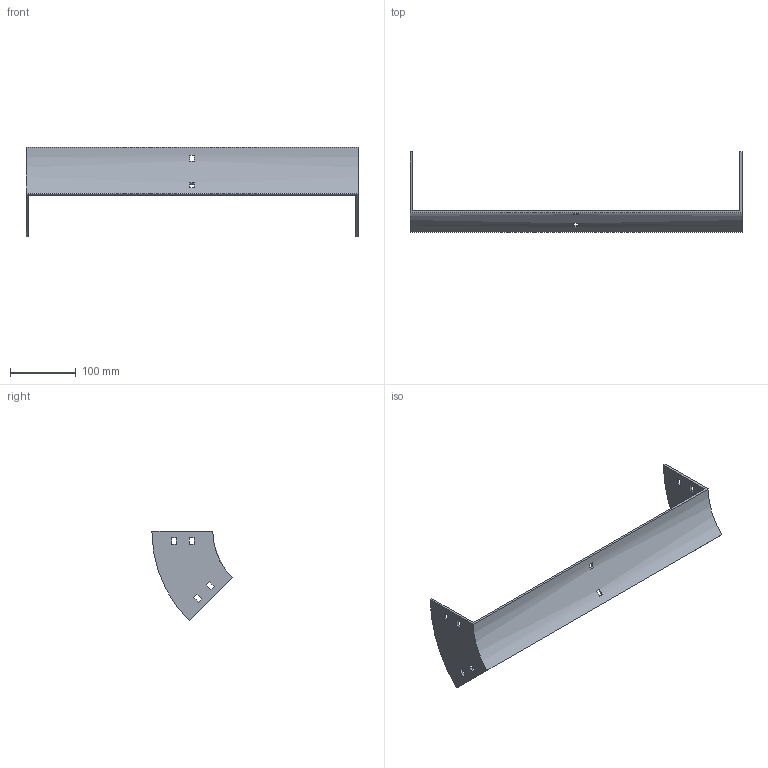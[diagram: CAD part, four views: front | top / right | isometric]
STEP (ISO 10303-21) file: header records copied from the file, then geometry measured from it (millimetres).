
FILE_DESCRIPTION (( 'STEP AP214' ), '1' );
FILE_NAME ('34B1I500.step', '2025-02-21T09:30:18', ( '' ), ( '' ), 'SwSTEP 2.0', 'SolidWorks 2023', '' );
FILE_SCHEMA (( 'AUTOMOTIVE_DESIGN' ));
Length unit declared in the file: millimetre
Products named in the file (1): 34B1I500
Bounding box: 504 x 121.79 x 136.12 mm (x, y, z)
Volume: 211010.5 mm3; surface area: 127572.2 mm2
Topology: 1 solids, 1 shells, 50 faces, 144 edges, 96 vertices
Faces by surface type: plane 46, cylinder 4
Entity records: 1687 total; most frequent: CARTESIAN_POINT 291, ORIENTED_EDGE 288, DIRECTION 262, EDGE_CURVE 144, LINE 128, VECTOR 128, VERTEX_POINT 96, EDGE_LOOP 70
